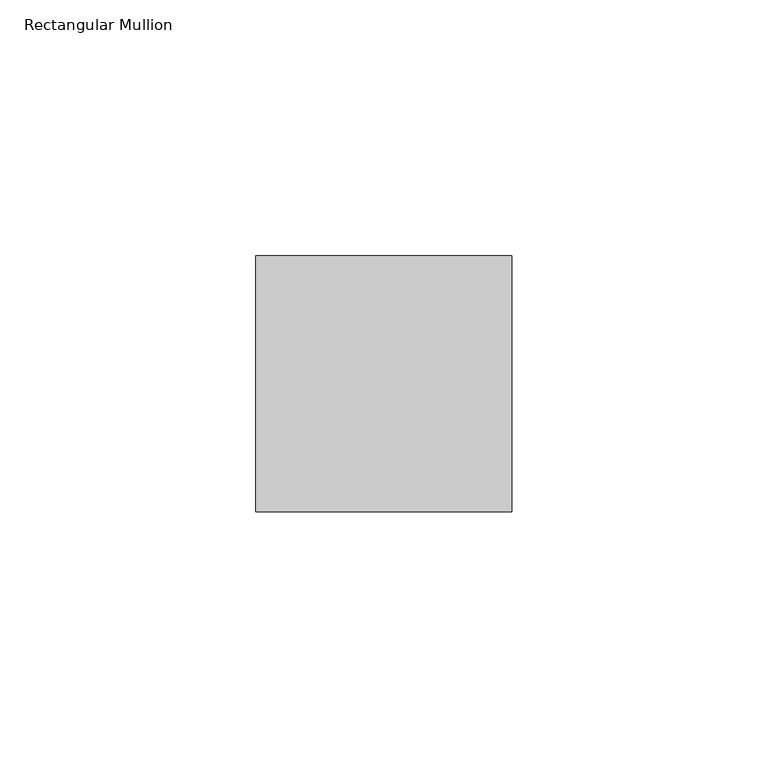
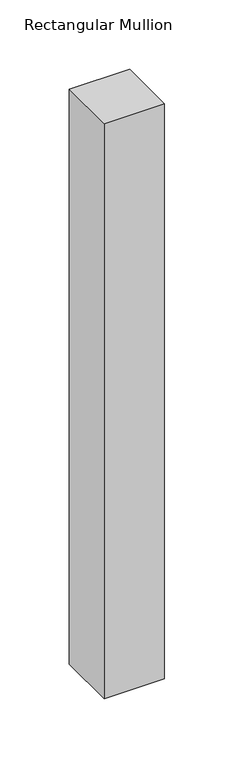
"""IFC4 building model written with IfcOpenShell, lengths in millimetres: member geometry, Rectangular Mullion : RSen_21_CWM_support profile 50x50 - right_gen_duco projects."""

from ifc_helpers import new_model, si_unit, frame, origin, place, context, project, spatial, polyline, outline, extrude, source, transform, mapped, element, save


def rectangular_mullion_fc1c4b0a(model_context):
    return source(origin(), model_context, "Body", "SweptSolid", [
        extrude(outline(polyline([(-50.0, 1.0), (0.0, 1.0), (0.0, -49.0), (-50.0, -49.0), (-50.0, 1.0)])), frame((0.0, 0.0, -505.0), z_axis=(0.0, 0.0, 1.0), x_axis=(1.0, 0.0, 0.0)), (0.0, 0.0, 1.0), 505.0),
    ])


if __name__ == "__main__":
    model = new_model("IFC4")
    model_context = context("Model", 3, world=origin())
    ifc_project = project(units=[si_unit("LENGTHUNIT", "METRE", prefix="MILLI")], contexts=[model_context])
    site = spatial("IfcSite", under=ifc_project)
    building = spatial("IfcBuilding", under=site)
    placement = place(None, origin())
    rectangular_mullion_shape = rectangular_mullion_fc1c4b0a(model_context)
    element("IfcMember", 1, ObjectType="Rectangular Mullion : RSen_21_CWM_support profile 50x50 - right_gen_duco projects", at=placement, inside=building, context=model_context, shape_type="MappedRepresentation", body=[
        mapped(rectangular_mullion_shape, transform((0.0, 0.0, 0.0), x_axis=(1.0, 0.0, 0.0), y_axis=(0.0, 1.0, 0.0), z_axis=(0.0, 0.0, 1.0))),
    ])
    save(model, "model.ifc")
